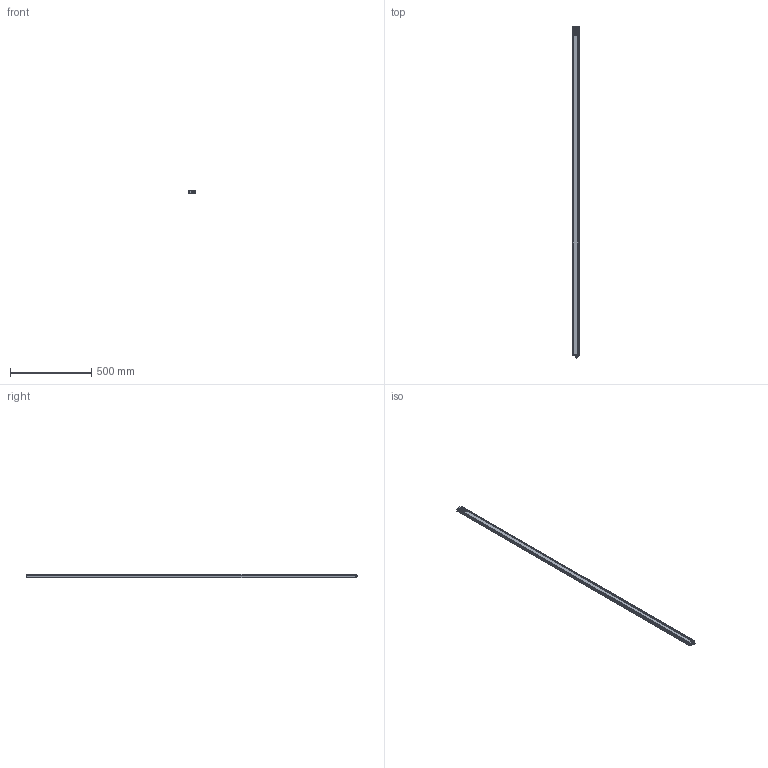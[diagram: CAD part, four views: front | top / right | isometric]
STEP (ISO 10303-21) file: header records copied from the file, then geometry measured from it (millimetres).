
FILE_DESCRIPTION(/* description */ (''),/* implementation_level */ '2;1');
FILE_NAME(/* name */ 'C:\Users\andre\SynologyDrive\Optoscan\Libreria Componenti\00 - Barriere\Polaris sorgente\Barriera Polaris RX\Polaris_2020_RX.stp',/* time_stamp */ '2021-06-04T12:01:11+02:00',/* author */ ('andre'),/* organization */ (''),/* preprocessor_version */ 'ST-DEVELOPER v18',/* originating_system */ 'Autodesk Inventor 2020',/* authorisation */ '');
FILE_SCHEMA (('AUTOMOTIVE_DESIGN { 1 0 10303 214 3 1 1 }'));
Length unit declared in the file: millimetre
Products named in the file (1): Polaris_2020_RX
Bounding box: 40.5 x 2049.3 x 20.75 mm (x, y, z)
Volume: 403653.9 mm3; surface area: 535597.1 mm2
Topology: 1 solids, 1 shells, 700 faces, 1926 edges, 1237 vertices
Faces by surface type: plane 319, cylinder 199, bspline 94, torus 70, sphere 10, cone 8
Full cylindrical faces by diameter (mm): 1 x8, 2.459 x4, 2.5 x4, 3 x4, 3.5 x4, 5.5 x4, 8 x1, 10.5 x2, 11.75 x9, 15.7 x1, 17.5 x1
Entity records: 28472 total; most frequent: CARTESIAN_POINT 10246, ORIENTED_EDGE 3826, DIRECTION 3447, EDGE_CURVE 1913, VERTEX_POINT 1237, AXIS2_PLACEMENT_3D 1211, LINE 1025, VECTOR 1025
